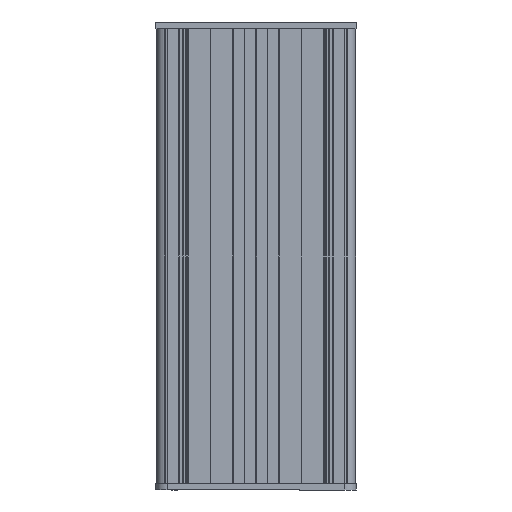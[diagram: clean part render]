
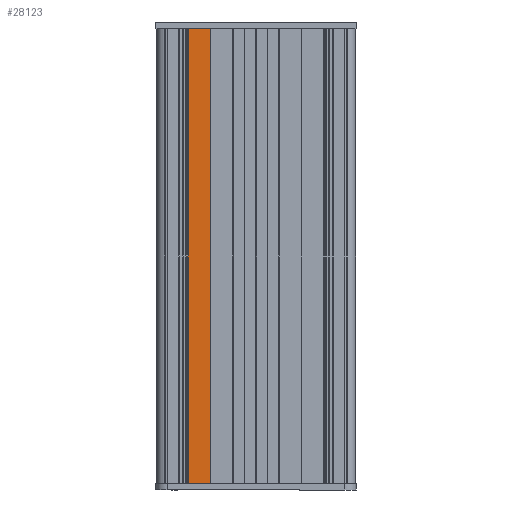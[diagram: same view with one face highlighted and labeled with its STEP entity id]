
A CAD part, left-side view. The second image highlights one B-rep face of the part: STEP entity #28123.
In plain terms, the highlighted planar face has unit normal (-1, 0, 0) as drawn and (0, -1, 0) by its records, which use the part's own axes.
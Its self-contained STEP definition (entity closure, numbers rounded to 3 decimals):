
#472 = DIRECTION ( 'NONE',  ( 0., -1., 0. ) ) ;
#483 = ORIENTED_EDGE ( 'NONE', *, *, #30201, .F. ) ;
#848 = CARTESIAN_POINT ( 'NONE',  ( 8., -5., 100. ) ) ;
#1606 = CARTESIAN_POINT ( 'NONE',  ( 18.725, -5., -100. ) ) ;
#2854 = DIRECTION ( 'NONE',  ( 1., 0., 0. ) ) ;
#3215 = PLANE ( 'NONE',  #28080 ) ;
#3399 = VERTEX_POINT ( 'NONE', #26708 ) ;
#4075 = CARTESIAN_POINT ( 'NONE',  ( 8.975, -5., -100. ) ) ;
#6797 = LINE ( 'NONE', #4075, #19915 ) ;
#7819 = CARTESIAN_POINT ( 'NONE',  ( 8., -5., -100. ) ) ;
#8286 = EDGE_CURVE ( 'NONE', #26857, #19707, #17889, .T. ) ;
#12028 = DIRECTION ( 'NONE',  ( 0., 0., -1. ) ) ;
#13099 = CARTESIAN_POINT ( 'NONE',  ( 8., -5., -100. ) ) ;
#13889 = CARTESIAN_POINT ( 'NONE',  ( 8.975, -5., -100. ) ) ;
#13992 = VECTOR ( 'NONE', #12028, 1000. ) ;
#15980 = FACE_OUTER_BOUND ( 'NONE', #30889, .T. ) ;
#17889 = LINE ( 'NONE', #7819, #18577 ) ;
#18173 = CARTESIAN_POINT ( 'NONE',  ( 8.975, -5., 100. ) ) ;
#18577 = VECTOR ( 'NONE', #28433, 1000. ) ;
#18745 = LINE ( 'NONE', #848, #22165 ) ;
#19330 = LINE ( 'NONE', #1606, #13992 ) ;
#19707 = VERTEX_POINT ( 'NONE', #31418 ) ;
#19915 = VECTOR ( 'NONE', #21969, 1000. ) ;
#21969 = DIRECTION ( 'NONE',  ( 0., 0., 1. ) ) ;
#22165 = VECTOR ( 'NONE', #31364, 1000. ) ;
#24514 = ORIENTED_EDGE ( 'NONE', *, *, #8286, .T. ) ;
#25005 = VERTEX_POINT ( 'NONE', #18173 ) ;
#26708 = CARTESIAN_POINT ( 'NONE',  ( 18.725, -5., 100. ) ) ;
#26741 = ORIENTED_EDGE ( 'NONE', *, *, #26951, .F. ) ;
#26857 = VERTEX_POINT ( 'NONE', #13889 ) ;
#26951 = EDGE_CURVE ( 'NONE', #3399, #19707, #19330, .T. ) ;
#28080 = AXIS2_PLACEMENT_3D ( 'NONE', #13099, #472, #2854 ) ;
#28123 = ADVANCED_FACE ( 'NONE', ( #15980 ), #3215, .T. ) ;
#28433 = DIRECTION ( 'NONE',  ( 1., 0., 0. ) ) ;
#29120 = EDGE_CURVE ( 'NONE', #26857, #25005, #6797, .T. ) ;
#30201 = EDGE_CURVE ( 'NONE', #25005, #3399, #18745, .T. ) ;
#30889 = EDGE_LOOP ( 'NONE', ( #33250, #24514, #26741, #483 ) ) ;
#31364 = DIRECTION ( 'NONE',  ( 1., 0., 0. ) ) ;
#31418 = CARTESIAN_POINT ( 'NONE',  ( 18.725, -5., -100. ) ) ;
#33250 = ORIENTED_EDGE ( 'NONE', *, *, #29120, .F. ) ;
